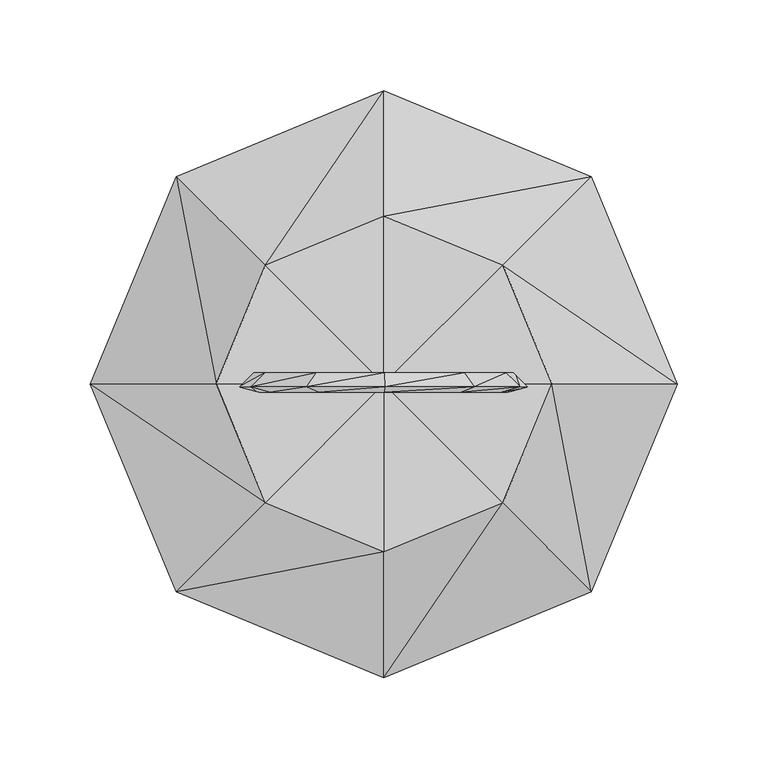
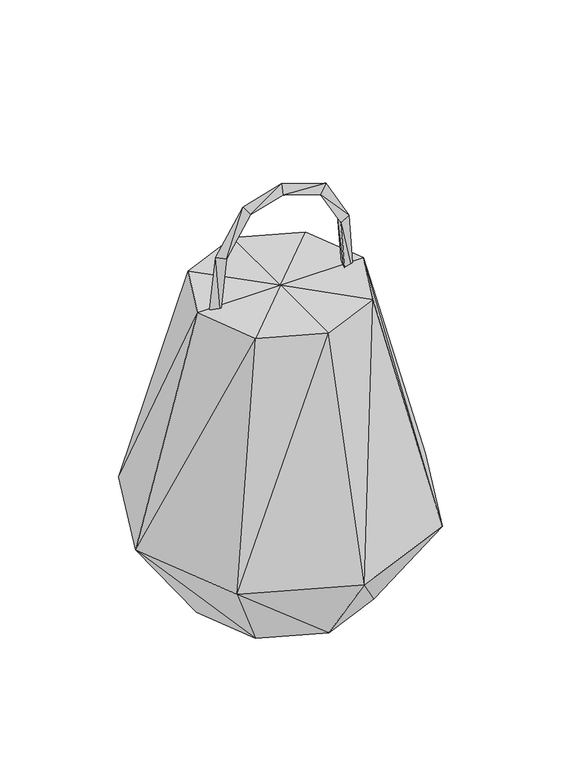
"""IFC4 building model written with IfcOpenShell, lengths in millimetres: geographic element geometry, Enscape AssetDefinition - Candle Lantern 02 : Enscape AssetDefinition - Candle Lantern 02."""

from ifc_helpers import new_model, si_unit, origin, place, context, project, spatial, faceted_brep, source, transform, mapped, element, save


def geographic_element_e55dff35(model_context):
    return source(origin(), model_context, "Body", "Brep", [
        faceted_brep([(-74.9322176, -1.6866054, 413.2500589), (-70.9654763, -4.6078502, 347.7069438), (-64.3588901, -4.6078605, 409.5886648), (-81.8061382, -1.686595, 348.8643169), (-73.8702267, 6.2944223, 348.0170369), (-67.1920031, 6.2944121, 410.5697274), (-44.2169122, -1.6866134, 462.2026086), (-37.1857919, -4.6078674, 452.8958499), (-39.0697755, 6.2944051, 455.3895593), (-0.8242407, -1.6866154, 474.8484492), (-1.0592806, -4.6078693, 463.4241462), (-0.9963015, 6.2944032, 466.4852619), (48.6278534, -1.6866128, 458.2011998), (41.1062278, -4.607867, 449.2297769), (43.1216396, 6.2944056, 451.633662), (74.2092431, -1.686605, 411.3824666), (63.5025948, -4.60786, 408.2402289), (66.3714334, 6.2944125, 409.0822041), (79.4580653, -1.6865931, 337.4424875), (68.5831606, -4.6078484, 336.6704881), (71.4970753, 6.2944242, 336.877346)], [[[0, 1, 2]], [[1, 3, 4]], [[1, 0, 3]], [[4, 2, 1]], [[2, 4, 5]], [[6, 2, 7]], [[2, 6, 0]], [[5, 7, 2]], [[5, 3, 0]], [[8, 0, 6]], [[0, 8, 5]], [[3, 5, 4]], [[7, 5, 8]], [[9, 7, 10]], [[7, 9, 6]], [[8, 10, 7]], [[11, 6, 9]], [[6, 11, 8]], [[10, 8, 11]], [[12, 10, 13]], [[10, 12, 9]], [[11, 13, 10]], [[14, 9, 12]], [[9, 14, 11]], [[13, 11, 14]], [[15, 13, 16]], [[13, 15, 12]], [[14, 16, 13]], [[17, 12, 15]], [[12, 17, 14]], [[16, 14, 17]], [[18, 16, 19]], [[16, 18, 15]], [[17, 19, 16]], [[20, 15, 18]], [[15, 20, 17]], [[19, 17, 20]], [[19, 20, 18]]]),
        faceted_brep([(161.0354036, 8e-07, 97.9748592), (92.7087516, -3e-06, 0.0), (65.1904047, 66.4351732, 0.0), (113.5046408, -114.7494316, 97.9748592), (65.1903972, -66.435203, 0.0), (-1.2447807, -4.5e-06, 0.0), (113.5046482, 114.7494242, 97.9748592), (-1.2447842, 93.9535275, 0.0), (64.3894449, 65.6342134, 353.9476097), (91.5760249, -3.3e-06, 353.9476097), (-1.2447796, -162.280187, 97.9748592), (64.3894449, -65.6342432, 353.9476097), (-1.2447784, -4.6e-06, 353.9476693), (-1.2447843, 92.8208008, 353.9476097), (-1.2447886, 162.280187, 97.9748592), (-66.8790042, 65.6342134, 353.9476097), (-94.0655842, -1.14e-05, 353.9476097), (-66.8789893, -65.6342432, 353.9476097), (-1.2447792, -92.8208157, 353.9476097), (-115.9941778, -114.7494316, 97.9748592), (-163.5249853, -1.33e-05, 97.9748592), (-115.9942001, 114.7494242, 97.9748592), (-67.679964, 66.4351732, 0.0), (-95.1983109, -1.12e-05, 0.0), (-67.6799491, -66.435203, 0.0), (-1.244779, -93.9535424, 0.0)], [[[0, 1, 2]], [[3, 4, 1]], [[5, 2, 1]], [[5, 1, 4]], [[3, 1, 0]], [[6, 2, 7]], [[5, 7, 2]], [[0, 2, 6]], [[0, 6, 8]], [[3, 0, 9]], [[0, 8, 9]], [[10, 3, 11]], [[10, 4, 3]], [[3, 9, 11]], [[12, 9, 8]], [[12, 11, 9]], [[12, 8, 13]], [[6, 13, 8]], [[6, 14, 13]], [[6, 7, 14]], [[12, 13, 15]], [[14, 15, 13]], [[12, 15, 16]], [[12, 16, 17]], [[12, 17, 18]], [[12, 18, 11]], [[10, 11, 18]], [[19, 10, 18]], [[19, 18, 17]], [[20, 19, 17]], [[20, 17, 16]], [[21, 20, 16]], [[21, 16, 15]], [[14, 21, 15]], [[14, 7, 22]], [[14, 22, 21]], [[21, 22, 23]], [[21, 23, 20]], [[20, 23, 24]], [[20, 24, 19]], [[19, 24, 25]], [[19, 25, 10]], [[5, 24, 23]], [[5, 25, 24]], [[5, 23, 22]], [[5, 22, 7]], [[5, 4, 25]], [[10, 25, 4]]]),
    ])


if __name__ == "__main__":
    model = new_model("IFC4")
    model_context = context("Model", 3, world=origin())
    ifc_project = project(units=[si_unit("LENGTHUNIT", "METRE", prefix="MILLI")], contexts=[model_context])
    site = spatial("IfcSite", under=ifc_project)
    building = spatial("IfcBuilding", under=site)
    placement = place(None, origin())
    geographic_element_shape = geographic_element_e55dff35(model_context)
    element("IfcGeographicElement", 1, ObjectType="Enscape AssetDefinition - Candle Lantern 02 : Enscape AssetDefinition - Candle Lantern 02", at=placement, inside=building, context=model_context, shape_type="MappedRepresentation", body=[
        mapped(geographic_element_shape, transform((0.0, 0.0, 0.0), x_axis=(1.0, 0.0, 0.0), y_axis=(0.0, 1.0, 0.0), z_axis=(0.0, 0.0, 1.0))),
    ])
    save(model, "model.ifc")
